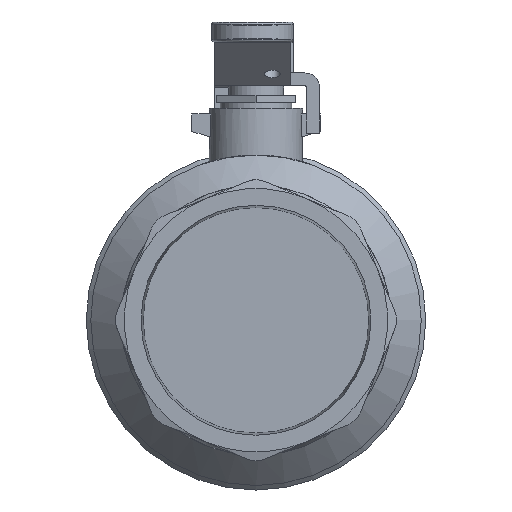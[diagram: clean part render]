
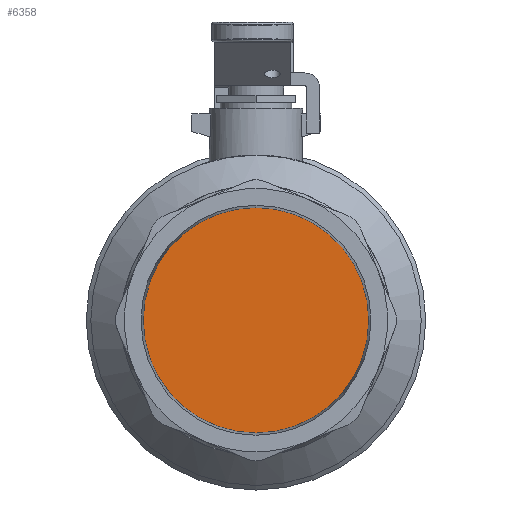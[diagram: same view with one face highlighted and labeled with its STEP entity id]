
A CAD part, left-side view. The second image highlights one B-rep face of the part: STEP entity #6358.
In plain terms, the highlighted free-form (B-spline) face has degree [1, 1] with [2, 2] control points.
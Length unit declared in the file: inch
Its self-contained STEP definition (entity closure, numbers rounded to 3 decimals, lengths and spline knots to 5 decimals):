
#6342=CARTESIAN_POINT('',(0.6969,1.12636,1.12636));
#6343=CARTESIAN_POINT('',(0.6969,-1.12636,1.12636));
#6344=CARTESIAN_POINT('',(0.6969,1.12636,-1.12636));
#6345=CARTESIAN_POINT('',(0.6969,-1.12636,-1.12636));
#6346=B_SPLINE_SURFACE_WITH_KNOTS('',1,1,((#6342,#6344),(#6343,#6345)),.UNSPECIFIED.,.F.,.F.,.U.,(2,2),(2,2),(0.0,2.25272),(0.0,2.25272),.UNSPECIFIED.);
#6347=CARTESIAN_POINT('',(0.6969,1.12636,0.0));
#6348=VERTEX_POINT('',#6347);
#6349=CARTESIAN_POINT('',(0.6969,0.0,0.0));
#6350=DIRECTION('',(1.0,0.0,0.0));
#6351=DIRECTION('',(0.0,1.0,0.0));
#6352=AXIS2_PLACEMENT_3D('',#6349,#6350,#6351);
#6353=CIRCLE('',#6352,1.12636);
#6354=EDGE_CURVE('',#6348,#6348,#6353,.T.);
#6355=ORIENTED_EDGE('',*,*,#6354,.F.);
#6356=EDGE_LOOP('',(#6355));
#6357=FACE_OUTER_BOUND('',#6356,.T.);
#6358=ADVANCED_FACE('',(#6357),#6346,.F.);
